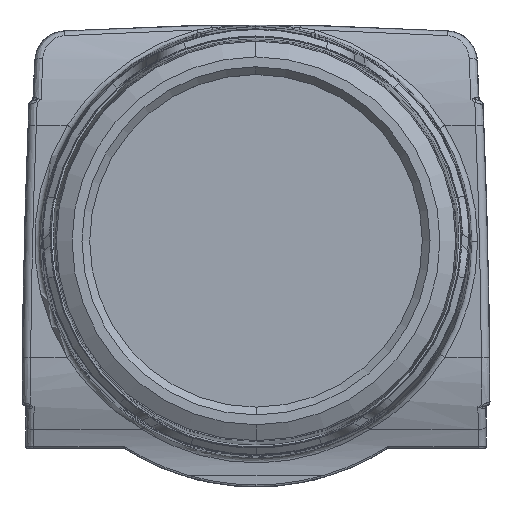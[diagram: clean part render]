
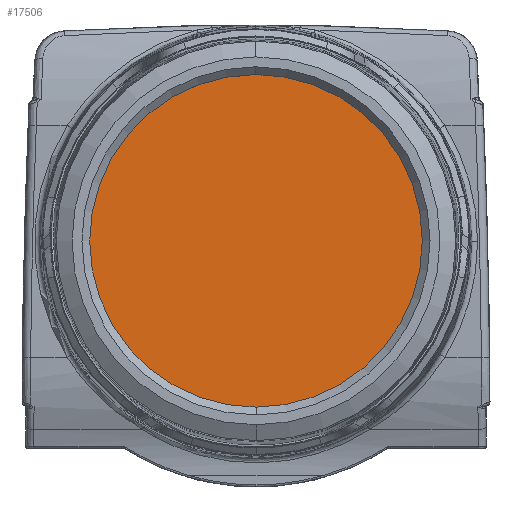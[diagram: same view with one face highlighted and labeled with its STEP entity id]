
A CAD part, top view. The second image highlights one B-rep face of the part: STEP entity #17506.
In plain terms, the highlighted planar face has unit normal (0, 0, 1).
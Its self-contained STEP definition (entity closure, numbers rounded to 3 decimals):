
#505 = AXIS2_PLACEMENT_3D ( 'NONE', #12379, #10238, #778 ) ;
#771 = EDGE_CURVE ( 'NONE', #24617, #16498, #11376, .T. ) ;
#778 = DIRECTION ( 'NONE',  ( 1., 0., 0. ) ) ;
#1417 = DIRECTION ( 'NONE',  ( 0., 0., 1. ) ) ;
#1745 = CARTESIAN_POINT ( 'NONE',  ( 17.187, 58.508, 92.863 ) ) ;
#4476 = CARTESIAN_POINT ( 'NONE',  ( 17.214, 37.008, 92.863 ) ) ;
#7804 = AXIS2_PLACEMENT_3D ( 'NONE', #18817, #1417, #10992 ) ;
#8986 = PLANE ( 'NONE',  #7804 ) ;
#9500 = EDGE_CURVE ( 'NONE', #16498, #24617, #18207, .T. ) ;
#9849 = EDGE_LOOP ( 'NONE', ( #21951, #11575 ) ) ;
#10238 = DIRECTION ( 'NONE',  ( 0., 0., -1. ) ) ;
#10992 = DIRECTION ( 'NONE',  ( 0.993, -0.121, 0. ) ) ;
#11376 = CIRCLE ( 'NONE', #505, 21.5 ) ;
#11575 = ORIENTED_EDGE ( 'NONE', *, *, #771, .F. ) ;
#11775 = AXIS2_PLACEMENT_3D ( 'NONE', #4476, #20363, #22103 ) ;
#12379 = CARTESIAN_POINT ( 'NONE',  ( 17.214, 37.008, 92.863 ) ) ;
#16427 = FACE_OUTER_BOUND ( 'NONE', #9849, .T. ) ;
#16498 = VERTEX_POINT ( 'NONE', #18709 ) ;
#17506 = ADVANCED_FACE ( 'NONE', ( #16427 ), #8986, .T. ) ;
#18207 = CIRCLE ( 'NONE', #11775, 21.5 ) ;
#18709 = CARTESIAN_POINT ( 'NONE',  ( 17.241, 15.508, 92.863 ) ) ;
#18817 = CARTESIAN_POINT ( 'NONE',  ( 17.214, 37.008, 92.863 ) ) ;
#20363 = DIRECTION ( 'NONE',  ( 0., 0., -1. ) ) ;
#21951 = ORIENTED_EDGE ( 'NONE', *, *, #9500, .F. ) ;
#22103 = DIRECTION ( 'NONE',  ( 1., 0., 0. ) ) ;
#24617 = VERTEX_POINT ( 'NONE', #1745 ) ;
